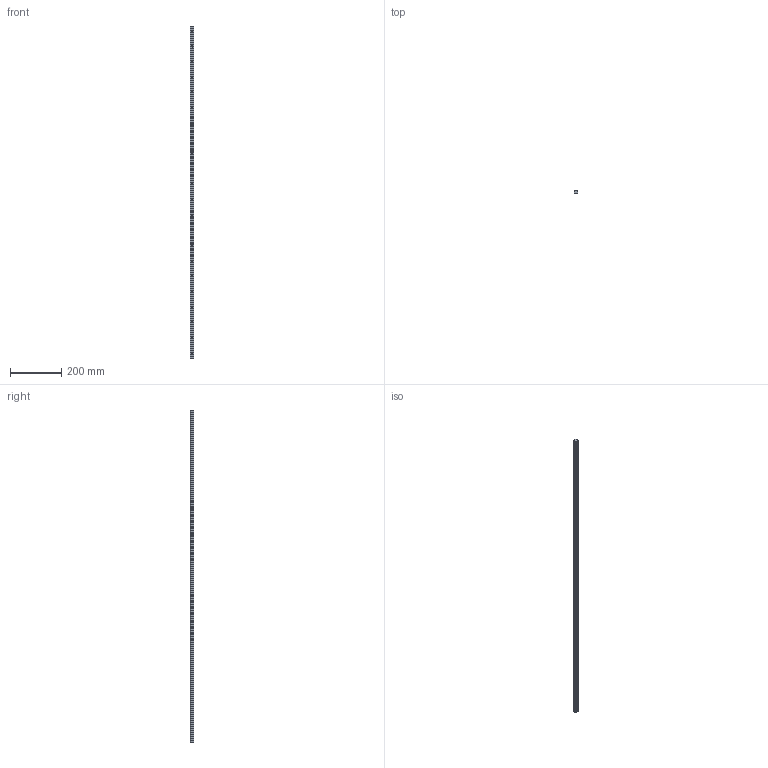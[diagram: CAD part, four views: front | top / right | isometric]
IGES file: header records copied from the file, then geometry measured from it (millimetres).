
Start section: SolidWorks IGES file using analytic representation for surfaces
Global section: file name: C:\Users\IanO\Desktop\L1016_v2\L1016.BL15_v2\L1016.BL15_v2_20190611_IGES\L1016.BL15-1300.igs; native system: SolidWorks 2017; preprocessor: SolidWorks 2017; author: IanO; date: 190612.122819; units: millimetre
Bounding box: 15 x 13 x 1300 mm (x, y, z)
Surface area: 79629.9 mm2 (no closed solid volume)
Topology: 0 solids, 0 shells, 136 faces, 3320 edges, 3320 vertices
Faces by surface type: revolution 92, bspline 44
